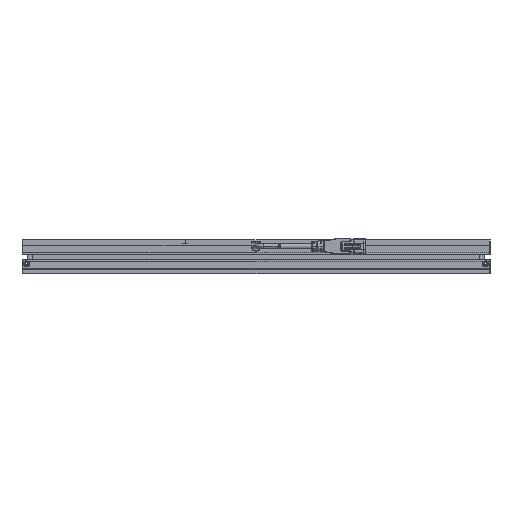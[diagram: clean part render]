
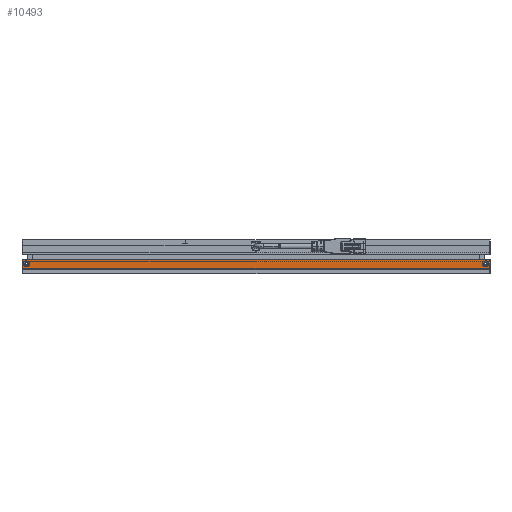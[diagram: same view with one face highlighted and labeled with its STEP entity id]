
A CAD part, left-side view. The second image highlights one B-rep face of the part: STEP entity #10493.
In plain terms, the highlighted planar face has unit normal (-1, 0, 0).
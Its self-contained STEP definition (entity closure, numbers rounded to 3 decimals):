
#838 = DIRECTION ( 'NONE',  ( 0., 0., -1. ) ) ;
#1038 = LINE ( 'NONE', #3524, #7956 ) ;
#1082 = CARTESIAN_POINT ( 'NONE',  ( -207., 157., -15.5 ) ) ;
#1293 = EDGE_CURVE ( 'NONE', #6224, #8990, #7992, .T. ) ;
#1445 = VERTEX_POINT ( 'NONE', #9724 ) ;
#1755 = CARTESIAN_POINT ( 'NONE',  ( -207., -154., -12.5 ) ) ;
#2210 = VERTEX_POINT ( 'NONE', #8354 ) ;
#2326 = ORIENTED_EDGE ( 'NONE', *, *, #7625, .T. ) ;
#2640 = CARTESIAN_POINT ( 'NONE',  ( -207., 157., -15.5 ) ) ;
#2682 = DIRECTION ( 'NONE',  ( 0., 0., -1. ) ) ;
#2698 = EDGE_CURVE ( 'NONE', #5585, #1445, #1038, .T. ) ;
#2723 = DIRECTION ( 'NONE',  ( 1., 0., 0. ) ) ;
#2884 = EDGE_CURVE ( 'NONE', #2210, #11834, #10488, .T. ) ;
#2908 = CARTESIAN_POINT ( 'NONE',  ( -207., 154., -12.5 ) ) ;
#3100 = LINE ( 'NONE', #2640, #6765 ) ;
#3298 = FACE_BOUND ( 'NONE', #6386, .T. ) ;
#3524 = CARTESIAN_POINT ( 'NONE',  ( -207., -156.5, 0. ) ) ;
#3606 = ORIENTED_EDGE ( 'NONE', *, *, #1293, .T. ) ;
#3770 = DIRECTION ( 'NONE',  ( 0., 0., -1. ) ) ;
#4548 = CARTESIAN_POINT ( 'NONE',  ( -207., 156.5, -9.85 ) ) ;
#4705 = CARTESIAN_POINT ( 'NONE',  ( -207., 154., -10.5 ) ) ;
#4866 = CARTESIAN_POINT ( 'NONE',  ( -207., -156.5, -9.85 ) ) ;
#5056 = CIRCLE ( 'NONE', #9761, 2. ) ;
#5294 = FACE_BOUND ( 'NONE', #11375, .T. ) ;
#5438 = ORIENTED_EDGE ( 'NONE', *, *, #2884, .T. ) ;
#5585 = VERTEX_POINT ( 'NONE', #4866 ) ;
#5666 = DIRECTION ( 'NONE',  ( 0., -1., 0. ) ) ;
#5982 = CIRCLE ( 'NONE', #8820, 2. ) ;
#6224 = VERTEX_POINT ( 'NONE', #4705 ) ;
#6386 = EDGE_LOOP ( 'NONE', ( #2326, #3606 ) ) ;
#6408 = CARTESIAN_POINT ( 'NONE',  ( -207., 154., -14.5 ) ) ;
#6541 = DIRECTION ( 'NONE',  ( 1., 0., 0. ) ) ;
#6765 = VECTOR ( 'NONE', #5666, 1000. ) ;
#7345 = CARTESIAN_POINT ( 'NONE',  ( -207., 156.5, 0. ) ) ;
#7545 = ORIENTED_EDGE ( 'NONE', *, *, #7993, .T. ) ;
#7625 = EDGE_CURVE ( 'NONE', #8990, #6224, #5982, .T. ) ;
#7722 = CARTESIAN_POINT ( 'NONE',  ( -207., -154., -12.5 ) ) ;
#7774 = EDGE_CURVE ( 'NONE', #9159, #5585, #9766, .T. ) ;
#7955 = DIRECTION ( 'NONE',  ( 1., 0., 0. ) ) ;
#7956 = VECTOR ( 'NONE', #8302, 1000. ) ;
#7992 = CIRCLE ( 'NONE', #11237, 2. ) ;
#7993 = EDGE_CURVE ( 'NONE', #11834, #2210, #5056, .T. ) ;
#8047 = DIRECTION ( 'NONE',  ( 0., 0., 1. ) ) ;
#8091 = CARTESIAN_POINT ( 'NONE',  ( -207., 156.5, -15.5 ) ) ;
#8302 = DIRECTION ( 'NONE',  ( 0., 0., -1. ) ) ;
#8354 = CARTESIAN_POINT ( 'NONE',  ( -207., -154., -10.5 ) ) ;
#8447 = DIRECTION ( 'NONE',  ( 0., 0., -1. ) ) ;
#8488 = ORIENTED_EDGE ( 'NONE', *, *, #7774, .F. ) ;
#8593 = CARTESIAN_POINT ( 'NONE',  ( -207., 154., -12.5 ) ) ;
#8820 = AXIS2_PLACEMENT_3D ( 'NONE', #2908, #11719, #9673 ) ;
#8927 = DIRECTION ( 'NONE',  ( 0., -1., 0. ) ) ;
#8990 = VERTEX_POINT ( 'NONE', #6408 ) ;
#9159 = VERTEX_POINT ( 'NONE', #4548 ) ;
#9418 = EDGE_CURVE ( 'NONE', #9159, #10634, #10350, .T. ) ;
#9476 = VECTOR ( 'NONE', #8927, 1000. ) ;
#9516 = EDGE_LOOP ( 'NONE', ( #8488, #9834, #11135, #12354 ) ) ;
#9635 = DIRECTION ( 'NONE',  ( 1., 0., 0. ) ) ;
#9673 = DIRECTION ( 'NONE',  ( 0., 0., -1. ) ) ;
#9724 = CARTESIAN_POINT ( 'NONE',  ( -207., -156.5, -15.5 ) ) ;
#9761 = AXIS2_PLACEMENT_3D ( 'NONE', #7722, #2723, #2682 ) ;
#9766 = LINE ( 'NONE', #10840, #9476 ) ;
#9834 = ORIENTED_EDGE ( 'NONE', *, *, #9418, .T. ) ;
#10350 = LINE ( 'NONE', #7345, #12297 ) ;
#10488 = CIRCLE ( 'NONE', #11482, 2. ) ;
#10493 = ADVANCED_FACE ( 'NONE', ( #3298, #5294, #11067 ), #11850, .F. ) ;
#10634 = VERTEX_POINT ( 'NONE', #8091 ) ;
#10840 = CARTESIAN_POINT ( 'NONE',  ( -207., 157., -9.85 ) ) ;
#11067 = FACE_OUTER_BOUND ( 'NONE', #9516, .T. ) ;
#11135 = ORIENTED_EDGE ( 'NONE', *, *, #12204, .T. ) ;
#11237 = AXIS2_PLACEMENT_3D ( 'NONE', #8593, #6541, #838 ) ;
#11375 = EDGE_LOOP ( 'NONE', ( #7545, #5438 ) ) ;
#11482 = AXIS2_PLACEMENT_3D ( 'NONE', #1755, #9635, #3770 ) ;
#11559 = AXIS2_PLACEMENT_3D ( 'NONE', #1082, #7955, #8047 ) ;
#11719 = DIRECTION ( 'NONE',  ( 1., 0., 0. ) ) ;
#11834 = VERTEX_POINT ( 'NONE', #12454 ) ;
#11850 = PLANE ( 'NONE',  #11559 ) ;
#12204 = EDGE_CURVE ( 'NONE', #10634, #1445, #3100, .T. ) ;
#12297 = VECTOR ( 'NONE', #8447, 1000. ) ;
#12354 = ORIENTED_EDGE ( 'NONE', *, *, #2698, .F. ) ;
#12454 = CARTESIAN_POINT ( 'NONE',  ( -207., -154., -14.5 ) ) ;
